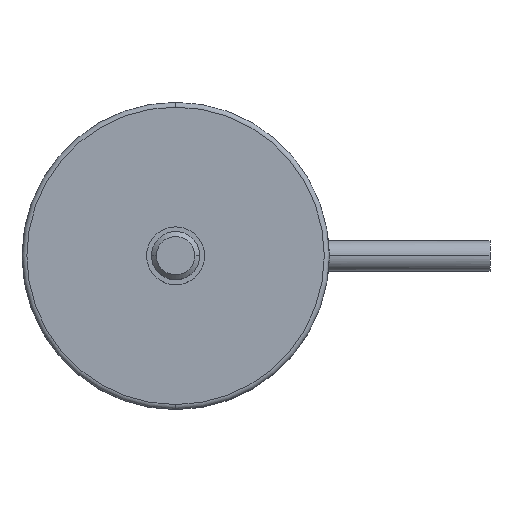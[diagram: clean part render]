
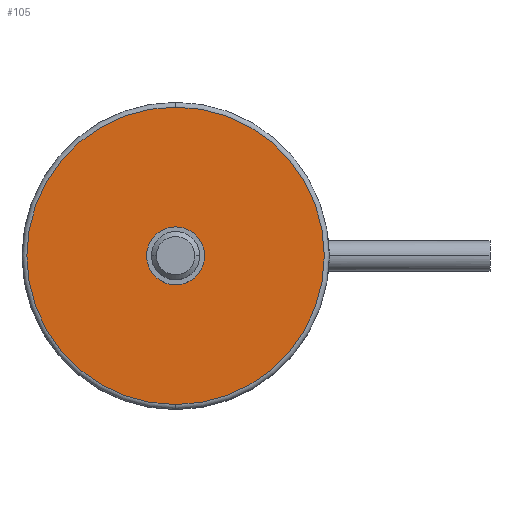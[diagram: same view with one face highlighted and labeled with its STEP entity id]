
A CAD part, top view. The second image highlights one B-rep face of the part: STEP entity #105.
In plain terms, the highlighted planar face has unit normal (0, 0, 1).
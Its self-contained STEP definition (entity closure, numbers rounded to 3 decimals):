
#105=ADVANCED_FACE('',(#173,#174),#175,.T.);
#173=FACE_BOUND('',#247,.T.);
#174=FACE_OUTER_BOUND('',#248,.T.);
#175=PLANE('',#249);
#247=EDGE_LOOP('',(#473,#474));
#248=EDGE_LOOP('',(#475,#476,#477));
#249=AXIS2_PLACEMENT_3D('',#478,#479,#480);
#473=ORIENTED_EDGE('',*,*,#587,.T.);
#474=ORIENTED_EDGE('',*,*,#536,.T.);
#475=ORIENTED_EDGE('',*,*,#532,.F.);
#476=ORIENTED_EDGE('',*,*,#531,.F.);
#477=ORIENTED_EDGE('',*,*,#588,.F.);
#478=CARTESIAN_POINT('',(4.625,0.,10.2));
#479=DIRECTION('',(0.,0.,1.0));
#480=DIRECTION('',(-1.0,0.,0.));
#531=EDGE_CURVE('',#619,#622,#623,.T.);
#532=EDGE_CURVE('',#622,#624,#625,.T.);
#536=EDGE_CURVE('',#631,#628,#632,.T.);
#587=EDGE_CURVE('',#628,#631,#710,.T.);
#588=EDGE_CURVE('',#624,#619,#711,.T.);
#619=VERTEX_POINT('',#763);
#622=VERTEX_POINT('',#766);
#623=CIRCLE('',#767,9.25);
#624=VERTEX_POINT('',#768);
#625=CIRCLE('',#769,9.25);
#628=VERTEX_POINT('',#772);
#631=VERTEX_POINT('',#776);
#632=CIRCLE('',#777,1.8);
#710=CIRCLE('',#893,1.8);
#711=CIRCLE('',#894,9.25);
#763=CARTESIAN_POINT('',(0.,9.25,10.2));
#766=CARTESIAN_POINT('',(9.25,0.,10.2));
#767=AXIS2_PLACEMENT_3D('',#931,#932,#933);
#768=CARTESIAN_POINT('',(0.,-9.25,10.2));
#769=AXIS2_PLACEMENT_3D('',#934,#935,#936);
#772=CARTESIAN_POINT('',(1.8,0.0,10.2));
#776=CARTESIAN_POINT('',(-1.8,0.,10.2));
#777=AXIS2_PLACEMENT_3D('',#944,#945,#946);
#893=AXIS2_PLACEMENT_3D('',#1052,#1053,#1054);
#894=AXIS2_PLACEMENT_3D('',#1055,#1056,#1057);
#931=CARTESIAN_POINT('',(0.0,0.,10.2));
#932=DIRECTION('',(0.0,0.,-1.0));
#933=DIRECTION('',(1.0,0.0,0.0));
#934=CARTESIAN_POINT('',(0.0,0.,10.2));
#935=DIRECTION('',(0.0,0.,-1.0));
#936=DIRECTION('',(1.0,0.0,0.0));
#944=CARTESIAN_POINT('',(0.0,0.0,10.2));
#945=DIRECTION('',(0.,0.,-1.0));
#946=DIRECTION('',(1.0,0.,0.));
#1052=CARTESIAN_POINT('',(0.0,0.0,10.2));
#1053=DIRECTION('',(0.,0.,-1.0));
#1054=DIRECTION('',(1.0,0.,0.));
#1055=CARTESIAN_POINT('',(0.0,0.,10.2));
#1056=DIRECTION('',(0.0,0.,-1.0));
#1057=DIRECTION('',(1.0,0.0,0.0));
